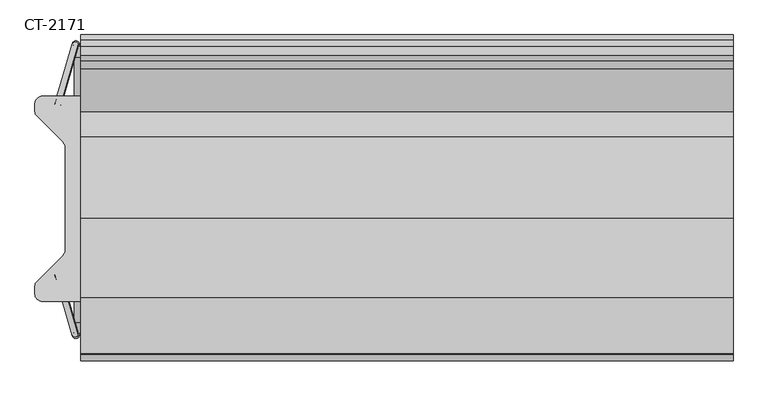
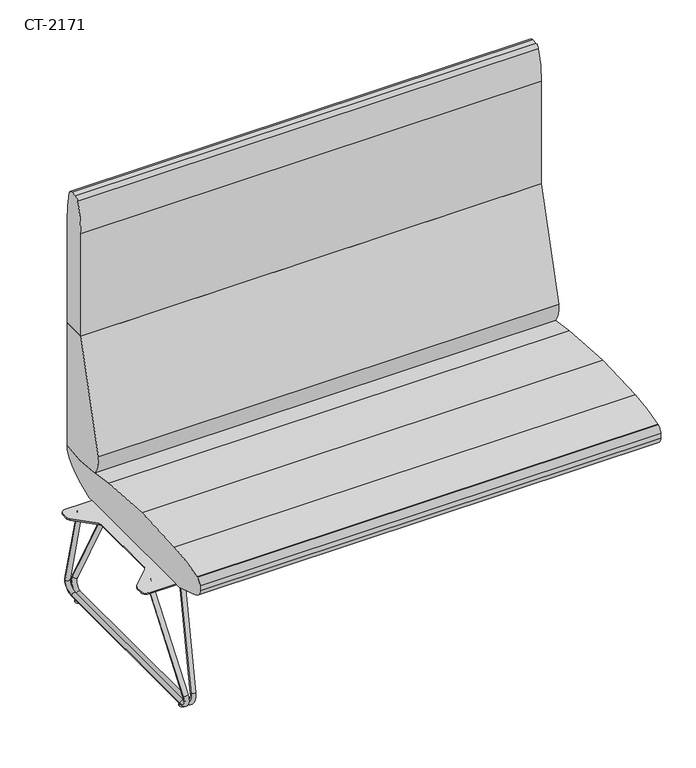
"""IFC4 building model written with IfcOpenShell, lengths in millimetres: furniture geometry, Davis_Furniture-Cantina-High_Back_Straight : CT-2171."""

import ifcopenshell
import ifcopenshell.guid

model = None  # the IFC model being written
_history = None  # IfcOwnerHistory: only IFC2X3 demands one
_inside = {}  # id of a spatial element -> (the spatial element, [elements in it])
_under = {}  # id of a project, library or spatial element -> (it, [spatial elements below it])
_declared = {}  # id of a project -> (the project, [libraries it declares])
_typed = {}  # id of a type object -> (the type object, [elements of that type])
_made_of = {}  # id of a material, layer set ... -> (it, [elements and type objects made of it])


def new_model(schema):
    """Start an empty IFC model of exactly this schema.

    Asked for "IFC4X3", IfcOpenShell would pick the latest addendum, in which some entities
    have other attributes; the version numbers below select the first issue.
    IFC2X3 requires an IfcOwnerHistory on every rooted entity: one is made here for all.
    """
    global model, _history
    if schema == "IFC4X3":
        model = ifcopenshell.file(schema_version=(4, 3, 0, 0))
    else:
        model = ifcopenshell.file(schema=schema)
    _inside.clear()
    _under.clear()
    _declared.clear()
    _typed.clear()
    _made_of.clear()
    _history = None
    if model.schema == "IFC2X3":
        org = make("IfcOrganization", Name="unknown")
        user = make(
            "IfcPersonAndOrganization",
            ThePerson=make("IfcPerson", FamilyName="unknown"),
            TheOrganization=org,
        )
        app = make(
            "IfcApplication",
            ApplicationDeveloper=org,
            Version="unknown",
            ApplicationFullName="unknown",
            ApplicationIdentifier="unknown",
        )
        _history = make(
            "IfcOwnerHistory",
            OwningUser=user,
            OwningApplication=app,
            ChangeAction="ADDED",
            CreationDate=0,
        )
    return model


def make(cls, **values):
    """One entity of the class cls with the attributes given. An attribute that is None is left unset."""
    return model.create_entity(
        cls, **{name: value for name, value in values.items() if value is not None}
    )


def rooted(cls, **values):
    """An entity with a GlobalId (a new one), such as an element, a storey or a relation."""
    return make(cls, GlobalId=ifcopenshell.guid.new(), OwnerHistory=_history, **values)


def si_unit(unit_type, name, prefix=None):
    """IfcSIUnit, for example si_unit("LENGTHUNIT", "METRE", prefix="MILLI")."""
    return make("IfcSIUnit", UnitType=unit_type, Prefix=prefix, Name=name)


def assignment(units):
    """IfcUnitAssignment: the units of a project."""
    return None if units is None else make("IfcUnitAssignment", Units=units)


def point(xyz):
    """IfcCartesianPoint."""
    return None if xyz is None else make("IfcCartesianPoint", Coordinates=xyz)


def direction(xyz):
    """IfcDirection."""
    return None if xyz is None else make("IfcDirection", DirectionRatios=xyz)


def frame(location, z_axis=None, x_axis=None):
    """IfcAxis2Placement3D, a coordinate frame: its origin and axes. An axis left out is left unset."""
    return make(
        "IfcAxis2Placement3D",
        Location=point(location),
        Axis=direction(z_axis),
        RefDirection=direction(x_axis),
    )


def frame_2d(location, x_axis=None):
    """IfcAxis2Placement2D, a coordinate frame in the plane: its origin and x axis."""
    return make(
        "IfcAxis2Placement2D", Location=point(location), RefDirection=direction(x_axis)
    )


def origin():
    """The frame at (0, 0, 0) with its axes left unset."""
    return frame((0.0, 0.0, 0.0))


def origin_with_axes():
    """The frame at (0, 0, 0) with the z axis (0, 0, 1) and the x axis (1, 0, 0) written out."""
    return frame((0.0, 0.0, 0.0), z_axis=(0.0, 0.0, 1.0), x_axis=(1.0, 0.0, 0.0))


def place(relative_to, where):
    """IfcLocalPlacement: puts the frame where relative to a parent placement (None: the world)."""
    return make(
        "IfcLocalPlacement", PlacementRelTo=relative_to, RelativePlacement=where
    )


def context(
    kind, dimensions, precision=None, world=None, true_north=None, identifier=None
):
    """IfcGeometricRepresentationContext, for example the 3D "Model" context."""
    return make(
        "IfcGeometricRepresentationContext",
        ContextIdentifier=identifier,
        ContextType=kind,
        CoordinateSpaceDimension=dimensions,
        Precision=precision,
        WorldCoordinateSystem=world,
        TrueNorth=true_north,
    )


def project(units=None, contexts=None):
    """IfcProject with its units and contexts."""
    return rooted(
        "IfcProject",
        Name="project",
        RepresentationContexts=contexts,
        UnitsInContext=assignment(units),
    )


def spatial(cls, under=None, at=None, **own):
    """A site, building, storey or space (cls), placed at a placement, below another one or the project."""
    s = rooted(cls, ObjectPlacement=at, **own)
    if under is not None:
        _under.setdefault(under.id(), (under, []))[1].append(s)
    return s


def polyline(points):
    """IfcPolyline through the points."""
    return make("IfcPolyline", Points=[point(p) for p in points])


def circle_curve(where, radius):
    """IfcCircle in the frame where."""
    return make("IfcCircle", Position=where, Radius=radius)


def ellipse_curve(where, semi_axis1, semi_axis2):
    """IfcEllipse in the frame where."""
    return make(
        "IfcEllipse", Position=where, SemiAxis1=semi_axis1, SemiAxis2=semi_axis2
    )


def trimmed(basis, trim1, trim2, sense, master):
    """IfcTrimmedCurve: the piece of a basis curve between two trims."""
    return make(
        "IfcTrimmedCurve",
        BasisCurve=basis,
        Trim1=trim1,
        Trim2=trim2,
        SenseAgreement=sense,
        MasterRepresentation=master,
    )


def segment(curve, same_sense, transition):
    """IfcCompositeCurveSegment."""
    return make(
        "IfcCompositeCurveSegment",
        Transition=transition,
        SameSense=same_sense,
        ParentCurve=curve,
    )


def composite_curve(segments, self_intersect=None):
    """IfcCompositeCurve: segments joined end to end."""
    return make("IfcCompositeCurve", Segments=segments, SelfIntersect=self_intersect)


def outline(outer, holes=None, kind="AREA"):
    """IfcArbitraryClosedProfileDef: a profile drawn as a closed curve; with holes, ...WithVoids."""
    if holes is None:
        return make("IfcArbitraryClosedProfileDef", ProfileType=kind, OuterCurve=outer)
    return make(
        "IfcArbitraryProfileDefWithVoids",
        ProfileType=kind,
        OuterCurve=outer,
        InnerCurves=holes,
    )


def extrude(swept, where, along, depth):
    """IfcExtrudedAreaSolid: the profile swept, set in the frame where, extruded along a direction by depth."""
    return make(
        "IfcExtrudedAreaSolid",
        SweptArea=swept,
        Position=where,
        ExtrudedDirection=direction(along),
        Depth=depth,
    )


def shape(context_of_items, identifier, shape_type, items):
    """IfcShapeRepresentation: the items that make up one representation, for example the "Body"."""
    return make(
        "IfcShapeRepresentation",
        ContextOfItems=context_of_items,
        RepresentationIdentifier=identifier,
        RepresentationType=shape_type,
        Items=items,
    )


def source(mapping_origin, context_of_items, identifier, shape_type, items):
    """IfcRepresentationMap: a shape defined once, which mapped items show again and again."""
    return make(
        "IfcRepresentationMap",
        MappingOrigin=mapping_origin,
        MappedRepresentation=shape(context_of_items, identifier, shape_type, items),
    )


def transform(
    local_origin,
    x_axis=None,
    y_axis=None,
    z_axis=None,
    scale=None,
    scale2=None,
    scale3=None,
    uniform=True,
):
    """IfcCartesianTransformationOperator3D, or its non-uniform kind. x_axis, y_axis, z_axis: its Axis1, 2, 3."""
    if uniform:
        return make(
            "IfcCartesianTransformationOperator3D",
            Axis1=direction(x_axis),
            Axis2=direction(y_axis),
            LocalOrigin=point(local_origin),
            Scale=scale,
            Axis3=direction(z_axis),
        )
    return make(
        "IfcCartesianTransformationOperator3DnonUniform",
        Axis1=direction(x_axis),
        Axis2=direction(y_axis),
        LocalOrigin=point(local_origin),
        Scale=scale,
        Axis3=direction(z_axis),
        Scale2=scale2,
        Scale3=scale3,
    )


def mapped(mapping_source, mapping_target):
    """IfcMappedItem: shows the shape of a source again, moved by a transform."""
    return make(
        "IfcMappedItem", MappingSource=mapping_source, MappingTarget=mapping_target
    )


def made_of(thing, what):
    """Note that an element or type object is made of a material, layer set ...; save() writes the relation."""
    if what is not None:
        _made_of.setdefault(what.id(), (what, []))[1].append(thing)
    return thing


def element(
    cls,
    number,
    at=None,
    inside=None,
    cuts=None,
    type_object=None,
    material=None,
    context=None,
    identifier="Body",
    shape_type=None,
    held_by="IfcProductDefinitionShape",
    body=None,
    shapes=None,
    **own,
):
    """One element of the class cls, such as IfcWall. Its Tag is "e" and its number.

    at: its placement. inside: the storey or other place that contains it. cuts: it is an
    opening in that element (IfcRelVoidsElement). A single representation is given by context,
    identifier, shape_type and body (its items); several are given by shapes. held_by: the class
    of the entity that holds the representations. save() writes the other relations.
    """
    e = rooted(cls, Tag="e%d" % number, ObjectPlacement=at, **own)
    if body is not None:
        shapes = [shape(context, identifier, shape_type, body)]
    if shapes is not None:
        e.Representation = make(held_by, Representations=shapes)
    if inside is not None:
        _inside.setdefault(inside.id(), (inside, []))[1].append(e)
    if cuts is not None:
        rooted(
            "IfcRelVoidsElement", RelatingBuildingElement=cuts, RelatedOpeningElement=e
        )
    if type_object is not None:
        _typed.setdefault(type_object.id(), (type_object, []))[1].append(e)
    return made_of(e, material)


def aggregate(whole, parts):
    """IfcRelAggregates: a whole, such as a stair, and the parts it consists of."""
    return rooted("IfcRelAggregates", RelatingObject=whole, RelatedObjects=parts)


def save(model, path):
    """Write the relations noted so far, then the file.

    IfcRelAggregates (storeys below a building ...), IfcRelContainedInSpatialStructure (elements
    in a storey), IfcRelDefinesByType, IfcRelAssociatesMaterial and IfcRelDeclares: one each for
    every whole, place, type object, material and project.
    """
    for whole, parts in _under.values():
        aggregate(whole, parts)
    for where, things in _inside.values():
        rooted(
            "IfcRelContainedInSpatialStructure",
            RelatedElements=things,
            RelatingStructure=where,
        )
    for kind, things in _typed.values():
        rooted("IfcRelDefinesByType", RelatedObjects=things, RelatingType=kind)
    for what, things in _made_of.values():
        rooted("IfcRelAssociatesMaterial", RelatedObjects=things, RelatingMaterial=what)
    for by, libraries in _declared.values():
        rooted("IfcRelDeclares", RelatingContext=by, RelatedDefinitions=libraries)
    model.write(path)


def plane_surface(at):
    """IfcPlane: the flat surface through the origin of the frame at, square to its z axis."""
    return make("IfcPlane", Position=at)


def cylinder_surface(at, radius):
    """IfcCylindricalSurface: all points at the distance radius from the z axis of the frame at."""
    return make("IfcCylindricalSurface", Position=at, Radius=radius)


def revolved_surface(curve, axis_point, axis_direction):
    """IfcSurfaceOfRevolution: the curve turned about the line through axis_point along axis_direction."""
    return make(
        "IfcSurfaceOfRevolution",
        SweptCurve=make("IfcArbitraryOpenProfileDef", ProfileType="CURVE", Curve=curve),
        AxisPosition=make("IfcAxis1Placement", Location=point(axis_point), Axis=direction(axis_direction)),
    )


def advanced_brep(points, edges, surfaces, faces):
    """IfcAdvancedBrep: a solid bounded by faces that lie on surfaces and meet in shared edges.

    An edge is (start, end): straight between two places in points (the first is 0);
    or (start, end, curve); or (start, end, curve, False) where it runs against its curve.
    A face is (place in surfaces, loops), or (place, loops, False) where it looks against
    its surface's normal. A loop lists edges by number (the first is 1), with a minus sign
    where the edge is run from its end to its start. The first loop is the outer one.
    """
    corners = [point(p) for p in points]
    vertices = [make("IfcVertexPoint", VertexGeometry=c) for c in corners]
    made = []
    for start, end, *more in edges:
        made.append(
            make(
                "IfcEdgeCurve",
                EdgeStart=vertices[start],
                EdgeEnd=vertices[end],
                EdgeGeometry=more[0] if more else make("IfcPolyline", Points=[corners[start], corners[end]]),
                SameSense=more[1] if len(more) > 1 else True,
            )
        )
    hull = []
    for where, loops, *sense in faces:
        bounds = []
        for j, loop in enumerate(loops):
            ring = [make("IfcOrientedEdge", EdgeElement=made[abs(k) - 1], Orientation=k > 0) for k in loop]
            bounds.append(
                make(
                    "IfcFaceOuterBound" if j == 0 else "IfcFaceBound",
                    Bound=make("IfcEdgeLoop", EdgeList=ring),
                    Orientation=True,
                )
            )
        hull.append(make("IfcAdvancedFace", Bounds=bounds, FaceSurface=surfaces[where], SameSense=sense[0] if sense else True))
    return make("IfcAdvancedBrep", Outer=make("IfcClosedShell", CfsFaces=hull))


def ct_2171_f297477d(model_context):
    return source(origin(), model_context, "Body", "SolidModel", [
        extrude(outline(composite_curve([segment(trimmed(circle_curve(frame_2d((-560.9693187, 183.2173202)), 14.9820313), [point((-560.9693187, 198.1993514))], [point((-545.9872874, 183.2173202))], False, "CARTESIAN"), True, "CONTINUOUS"), segment(polyline([(-545.9872874, 183.2173202), (-545.9872874, 168.7877705)]), True, "CONTINUOUS"), segment(trimmed(circle_curve(frame_2d((-559.9936431, 168.7877705)), 14.0063557), [point((-545.9872874, 168.7877705))], [point((-550.089654, 158.8837814))], False, "CARTESIAN"), True, "CONTINUOUS"), segment(polyline([(-550.089654, 158.8837814), (-600.6863336, 108.2871019)]), True, "CONTINUOUS"), segment(trimmed(circle_curve(frame_2d((-590.3029124, 97.9036807)), 14.684375), [point((-600.6863336, 108.2871019))], [point((-604.9872874, 97.9036807))], True, "CARTESIAN"), True, "CONTINUOUS"), segment(polyline([(-604.9872874, 97.9036807), (-604.9872874, -101.5049781)]), True, "CONTINUOUS"), segment(trimmed(circle_curve(frame_2d((-590.3029124, -101.5049781)), 14.684375), [point((-604.9872874, -101.5049781))], [point((-600.6863336, -111.8883992))], True, "CARTESIAN"), True, "CONTINUOUS"), segment(polyline([(-600.6863336, -111.8883992), (-550.089654, -162.4850787)]), True, "CONTINUOUS"), segment(trimmed(circle_curve(frame_2d((-559.9936431, -172.3890678)), 14.0063557), [point((-550.089654, -162.4850787))], [point((-545.9872874, -172.3890678))], False, "CARTESIAN"), True, "CONTINUOUS"), segment(polyline([(-545.9872874, -172.3890678), (-545.9872874, -186.8186175)]), True, "CONTINUOUS"), segment(trimmed(circle_curve(frame_2d((-560.9693187, -186.8186175)), 14.9820312), [point((-545.9872874, -186.8186175))], [point((-560.9693187, -201.8006488))], False, "CARTESIAN"), True, "CONTINUOUS"), segment(polyline([(-560.9693187, -201.8006488), (-709.0306813, -201.8006488)]), True, "CONTINUOUS"), segment(trimmed(circle_curve(frame_2d((-709.0306813, -186.8440427)), 14.956606), [point((-709.0306813, -201.8006488))], [point((-723.9872873, -186.8440427))], False, "CARTESIAN"), True, "CONTINUOUS"), segment(polyline([(-723.9872873, -186.8440427), (-723.9872873, -172.3822284)]), True, "CONTINUOUS"), segment(trimmed(circle_curve(frame_2d((-709.9974436, -172.3822284)), 13.9898438), [point((-723.9872873, -172.3822284))], [point((-719.889757, -162.489915))], False, "CARTESIAN"), True, "CONTINUOUS"), segment(polyline([(-719.889757, -162.489915), (-669.2882412, -111.8883992)]), True, "CONTINUOUS"), segment(trimmed(circle_curve(frame_2d((-679.6716623, -101.5049781)), 14.684375), [point((-669.2882412, -111.8883992))], [point((-664.9872873, -101.5049781))], True, "CARTESIAN"), True, "CONTINUOUS"), segment(polyline([(-664.9872873, -101.5049781), (-664.9872873, 97.918921)]), True, "CONTINUOUS"), segment(trimmed(circle_curve(frame_2d((-679.6348691, 97.918921)), 14.6475818), [point((-664.9872873, 97.918921))], [point((-669.2774647, 108.2763254))], True, "CARTESIAN"), True, "CONTINUOUS"), segment(polyline([(-669.2774647, 108.2763254), (-719.889757, 158.8886177)]), True, "CONTINUOUS"), segment(trimmed(circle_curve(frame_2d((-709.9974436, 168.780931)), 13.9898437), [point((-719.889757, 158.8886177))], [point((-723.9872873, 168.780931))], False, "CARTESIAN"), True, "CONTINUOUS"), segment(polyline([(-723.9872873, 168.780931), (-723.9872873, 183.2427454)]), True, "CONTINUOUS"), segment(trimmed(circle_curve(frame_2d((-709.0306813, 183.2427454)), 14.956606), [point((-723.9872873, 183.2427454))], [point((-709.0306813, 198.1993514))], False, "CARTESIAN"), True, "CONTINUOUS"), segment(polyline([(-709.0306813, 198.1993514), (-560.9693187, 198.1993514)]), True, "CONTINUOUS")], self_intersect=False)), frame((0.0, 0.0, 330.7277844), z_axis=(0.0, 0.0, 1.0), x_axis=(1.0, 0.0, 0.0)), (0.0, 0.0, 1.0), 3.1724353),
        advanced_brep(
        [(-630.6523545, 298.4299122, 51.3019909), (-618.2136707, 297.001732, 49.1737411), (-583.6431811, 178.5251074, 330.7277844), (-596.3431811, 180.8488451, 330.7277844), (-635.0044706, 274.6441492, 15.8568497), (-622.3044706, 274.6441492, 15.8568497), (-635.0044706, -242.6856853, 15.8568497), (-622.3044706, -242.6856853, 15.8568497), (-630.6523545, -266.4714483, 51.3019909), (-618.2136707, -265.0432681, 49.1737411), (-596.3431811, -148.8903812, 330.7277844), (-583.6431811, -146.5666435, 330.7277844)],
        [
            (0, 1, circle_curve(frame((-624.4330126, 297.7158221, 50.237866), z_axis=(0.112455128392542, -0.3853952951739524, 0.9158735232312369), x_axis=(-0.9794239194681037, 0.11245512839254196, 0.16757872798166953)), 6.35)),
            (1, 2),
            (2, 3, ellipse_curve(frame((-589.9931811, 179.6869762, 330.7277844), z_axis=(0.0, 0.0, -1.0), x_axis=(0.28011057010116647, -0.9599677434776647, 0.0)), 6.9332717, 6.35)),
            (3, 0),
            (1, 0, circle_curve(frame((-624.4330126, 297.7158221, 50.237866), z_axis=(0.112455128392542, -0.3853952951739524, 0.9158735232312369), x_axis=(-0.9794239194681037, 0.11245512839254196, 0.16757872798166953)), 6.35)),
            (3, 2, ellipse_curve(frame((-589.9931811, 179.6869762, 330.7277844), z_axis=(0.0, 0.0, -1.0), x_axis=(0.28011057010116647, -0.9599677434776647, 0.0)), 6.9332717, 6.35)),
            (0, 4, circle_curve(frame((-631.8630451, 274.6441492, 41.4417072), z_axis=(-0.9925461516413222, 0.0, 0.12186934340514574), x_axis=(0.046967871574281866, 0.9227515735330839, 0.38252261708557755)), 25.7769953)),
            (4, 5, circle_curve(frame((-628.6544706, 274.6441492, 15.8568497), z_axis=(0.0, 1.0, 0.0), x_axis=(-1.0, 0.0, 0.0)), 6.35)),
            (5, 1, circle_curve(frame((-619.3516672, 274.6441492, 39.9055032), z_axis=(0.9925461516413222, 0.0, -0.12186934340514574), x_axis=(0.046967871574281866, 0.9227515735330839, 0.38252261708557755)), 24.2292547)),
            (5, 4, circle_curve(frame((-628.6544706, 274.6441492, 15.8568497), z_axis=(0.0, 0.9999999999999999, 0.0), x_axis=(-1.0, 0.0, 0.0)), 6.35)),
            (4, 6),
            (6, 7, circle_curve(frame((-628.6544706, -242.6856853, 15.8568497), z_axis=(0.0, 1.0, 0.0), x_axis=(-1.0, 0.0, 0.0)), 6.35)),
            (7, 5),
            (7, 6, circle_curve(frame((-628.6544706, -242.6856853, 15.8568497), z_axis=(0.0, 1.0, 0.0), x_axis=(-1.0, 0.0, 0.0)), 6.35)),
            (6, 8, circle_curve(frame((-631.8630451, -242.6856853, 41.4417072), z_axis=(-0.9925461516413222, 0.0, 0.12186934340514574), x_axis=(-0.12186934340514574, 0.0, -0.9925461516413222)), 25.7769953)),
            (8, 9, circle_curve(frame((-624.4330126, -265.7573582, 50.237866), z_axis=(-0.11245512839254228, -0.3853952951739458, -0.9158735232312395), x_axis=(-0.9794239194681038, -0.1124551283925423, 0.16757872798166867)), 6.35)),
            (9, 7, circle_curve(frame((-619.3516672, -242.6856853, 39.9055032), z_axis=(0.9925461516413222, 0.0, -0.12186934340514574), x_axis=(-0.12186934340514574, 0.0, -0.9925461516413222)), 24.2292547)),
            (9, 8, circle_curve(frame((-624.4330126, -265.7573582, 50.237866), z_axis=(-0.11245512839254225, -0.3853952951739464, -0.9158735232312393), x_axis=(-0.9794239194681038, -0.11245512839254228, 0.16757872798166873)), 6.35)),
            (8, 10),
            (10, 11, ellipse_curve(frame((-589.9931811, -147.7285123, 330.7277844), z_axis=(0.0, 0.0, -1.0), x_axis=(-0.28011057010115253, -0.9599677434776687, 0.0)), 6.9332717, 6.35)),
            (11, 9),
            (11, 10, ellipse_curve(frame((-589.9931811, -147.7285123, 330.7277844), z_axis=(0.0, 0.0, -1.0), x_axis=(-0.28011057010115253, -0.9599677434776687, 0.0)), 6.9332717, 6.35)),
        ],
        [
            cylinder_surface(frame((-588.8594802, 175.8016664, 339.9610379), z_axis=(0.112455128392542, -0.3853952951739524, 0.9158735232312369), x_axis=(-0.9794239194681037, 0.11245512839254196, 0.16757872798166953)), 6.35),
            revolved_surface(trimmed(ellipse_curve(frame((-624.4330126, 297.7158221, 50.237866), z_axis=(0.11245512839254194, -0.38539529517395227, 0.9158735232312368), x_axis=(-0.9794239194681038, 0.112455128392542, 0.1675787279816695)), 6.35, 6.35), [point((-630.6523545, 298.4299122, 51.3019909))], [point((-618.2136707, 297.001732, 49.1737411))], True, "CARTESIAN"), (-572.6417625, 274.6441492, 34.170248), (-0.9925461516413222, 0.0, 0.12186934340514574)),
            revolved_surface(trimmed(ellipse_curve(frame((-624.4330126, 297.7158221, 50.237866), z_axis=(0.11245512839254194, -0.38539529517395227, 0.9158735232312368), x_axis=(-0.9794239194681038, 0.112455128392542, 0.1675787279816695)), 6.35, 6.35), [point((-618.2136707, 297.001732, 49.1737411))], [point((-630.6523545, 298.4299122, 51.3019909))], True, "CARTESIAN"), (-572.6417625, 274.6441492, 34.170248), (-0.9925461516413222, 0.0, 0.12186934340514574)),
            cylinder_surface(frame((-628.6544706, 274.6441492, 15.8568497), z_axis=(0.0, 1.0, 0.0), x_axis=(-1.0, 0.0, 0.0)), 6.35),
            revolved_surface(trimmed(ellipse_curve(frame((-628.6544706, -242.6856853, 15.8568497), z_axis=(0.0, 1.0, 0.0), x_axis=(-1.0, 0.0, 0.0)), 6.35, 6.35), [point((-635.0044706, -242.6856853, 15.8568497))], [point((-622.3044706, -242.6856853, 15.8568497))], True, "CARTESIAN"), (-572.6417625, -242.6856853, 34.170248), (-0.9925461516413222, 0.0, 0.12186934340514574)),
            revolved_surface(trimmed(ellipse_curve(frame((-628.6544706, -242.6856853, 15.8568497), z_axis=(0.0, 1.0, 0.0), x_axis=(-1.0, 0.0, 0.0)), 6.35, 6.35), [point((-622.3044706, -242.6856853, 15.8568497))], [point((-635.0044706, -242.6856853, 15.8568497))], True, "CARTESIAN"), (-572.6417625, -242.6856853, 34.170248), (-0.9925461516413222, 0.0, 0.12186934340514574)),
            cylinder_surface(frame((-624.4330126, -265.7573582, 50.237866), z_axis=(-0.11245512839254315, -0.38539529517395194, -0.9158735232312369), x_axis=(-0.9794239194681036, -0.11245512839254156, 0.1675787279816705)), 6.35),
            plane_surface(frame((-695.325, -168.170768, 330.7277844), z_axis=(0.0, 0.0, 1.0), x_axis=(0.0, 1.0, 0.0))),
        ],
        [
            (0, [[1, 2, 3, 4]]),
            (0, [[5, -4, 6, -2]]),
            (1, [[-1, 7, 8, 9]]),
            (2, [[-5, -9, 10, -7]]),
            (3, [[-8, 11, 12, 13]]),
            (3, [[-10, -13, 14, -11]]),
            (4, [[-12, 15, 16, 17]]),
            (5, [[-14, -17, 18, -15]]),
            (6, [[-16, 19, 20, 21]]),
            (6, [[-18, -21, 22, -19]]),
            (7, [[-3, -6]]),
            (7, [[-20, -22]]),
        ],
    ),
        advanced_brep(
        [(-651.7863293, 297.001732, 49.1737411), (-639.3476455, 298.4299122, 51.3019909), (-673.6568189, 180.8488451, 330.7277844), (-686.3568189, 178.5251074, 330.7277844), (-647.6955294, 274.6441492, 15.8568497), (-634.9955294, 274.6441492, 15.8568497), (-647.6955294, -242.6856853, 15.8568497), (-634.9955294, -242.6856853, 15.8568497), (-651.7863293, -265.0432681, 49.1737411), (-639.3476455, -266.4714483, 51.3019909), (-686.3568189, -146.5666435, 330.7277844), (-673.6568189, -148.8903812, 330.7277844)],
        [
            (0, 1, circle_curve(frame((-645.5669874, 297.7158221, 50.237866), z_axis=(-0.11245512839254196, -0.38539529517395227, 0.915873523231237), x_axis=(0.9794239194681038, 0.11245512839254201, 0.1675787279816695)), 6.35)),
            (1, 2),
            (2, 3, ellipse_curve(frame((-680.0068189, 179.6869762, 330.7277844), z_axis=(0.0, 0.0, -1.0), x_axis=(-0.28011057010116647, -0.9599677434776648, 0.0)), 6.9332717, 6.35)),
            (3, 0),
            (1, 0, circle_curve(frame((-645.5669874, 297.7158221, 50.237866), z_axis=(-0.11245512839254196, -0.38539529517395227, 0.915873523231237), x_axis=(0.9794239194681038, 0.11245512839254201, 0.1675787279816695)), 6.35)),
            (3, 2, ellipse_curve(frame((-680.0068189, 179.6869762, 330.7277844), z_axis=(0.0, 0.0, -1.0), x_axis=(-0.28011057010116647, -0.9599677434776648, 0.0)), 6.9332717, 6.35)),
            (0, 4, circle_curve(frame((-650.6483328, 274.6441492, 39.9055032), z_axis=(-0.9925461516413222, 0.0, -0.12186934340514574), x_axis=(-0.046967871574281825, 0.9227515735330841, 0.38252261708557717)), 24.2292547)),
            (4, 5, circle_curve(frame((-641.3455294, 274.6441492, 15.8568497), z_axis=(0.0, 1.0000000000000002, 0.0), x_axis=(1.0, 0.0, 0.0)), 6.35)),
            (5, 1, circle_curve(frame((-638.1369549, 274.6441492, 41.4417072), z_axis=(0.9925461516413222, 0.0, 0.12186934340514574), x_axis=(-0.046967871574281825, 0.9227515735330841, 0.38252261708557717)), 25.7769953)),
            (5, 4, circle_curve(frame((-641.3455294, 274.6441492, 15.8568497), z_axis=(0.0, 1.0000000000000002, 0.0), x_axis=(1.0, 0.0, 0.0)), 6.35)),
            (4, 6),
            (6, 7, circle_curve(frame((-641.3455294, -242.6856853, 15.8568497), z_axis=(0.0, 1.0, 0.0), x_axis=(1.0, 0.0, 0.0)), 6.35)),
            (7, 5),
            (7, 6, circle_curve(frame((-641.3455294, -242.6856853, 15.8568497), z_axis=(0.0, 1.0, 0.0), x_axis=(1.0, 0.0, 0.0)), 6.35)),
            (6, 8, circle_curve(frame((-650.6483328, -242.6856853, 39.9055032), z_axis=(-0.9925461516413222, 0.0, -0.12186934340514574), x_axis=(0.12186934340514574, 0.0, -0.9925461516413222)), 24.2292547)),
            (8, 9, circle_curve(frame((-645.5669874, -265.7573582, 50.237866), z_axis=(0.11245512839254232, -0.3853952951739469, -0.915873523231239), x_axis=(0.9794239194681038, -0.11245512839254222, 0.1675787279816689)), 6.35)),
            (9, 7, circle_curve(frame((-638.1369549, -242.6856853, 41.4417072), z_axis=(0.9925461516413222, 0.0, 0.12186934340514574), x_axis=(0.12186934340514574, 0.0, -0.9925461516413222)), 25.7769953)),
            (9, 8, circle_curve(frame((-645.5669874, -265.7573582, 50.237866), z_axis=(0.11245512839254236, -0.3853952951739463, -0.9158735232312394), x_axis=(0.9794239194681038, -0.11245512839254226, 0.1675787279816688)), 6.35)),
            (8, 10),
            (10, 11, ellipse_curve(frame((-680.0068189, -147.7285123, 330.7277844), z_axis=(0.0, 0.0, -1.0), x_axis=(0.2801105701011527, -0.9599677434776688, 0.0)), 6.9332717, 6.35)),
            (11, 9),
            (11, 10, ellipse_curve(frame((-680.0068189, -147.7285123, 330.7277844), z_axis=(0.0, 0.0, -1.0), x_axis=(0.2801105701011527, -0.9599677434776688, 0.0)), 6.9332717, 6.35)),
        ],
        [
            cylinder_surface(frame((-681.1405198, 175.8016664, 339.9610379), z_axis=(-0.11245512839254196, -0.38539529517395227, 0.915873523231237), x_axis=(0.9794239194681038, 0.11245512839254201, 0.1675787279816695)), 6.35),
            revolved_surface(trimmed(ellipse_curve(frame((-645.5669874, 297.7158221, 50.237866), z_axis=(-0.11245512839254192, -0.385395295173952, 0.9158735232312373), x_axis=(0.9794239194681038, 0.11245512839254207, 0.1675787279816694)), 6.35, 6.35), [point((-651.7863293, 297.001732, 49.1737411))], [point((-639.3476455, 298.4299122, 51.3019909))], True, "CARTESIAN"), (-697.3582375, 274.6441492, 34.170248), (-0.9925461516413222, 0.0, -0.12186934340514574)),
            revolved_surface(trimmed(ellipse_curve(frame((-645.5669874, 297.7158221, 50.237866), z_axis=(-0.11245512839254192, -0.385395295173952, 0.9158735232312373), x_axis=(0.9794239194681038, 0.11245512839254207, 0.1675787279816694)), 6.35, 6.35), [point((-639.3476455, 298.4299122, 51.3019909))], [point((-651.7863293, 297.001732, 49.1737411))], True, "CARTESIAN"), (-697.3582375, 274.6441492, 34.170248), (-0.9925461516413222, 0.0, -0.12186934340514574)),
            cylinder_surface(frame((-641.3455294, 274.6441492, 15.8568497), z_axis=(0.0, 1.0, 0.0), x_axis=(1.0, 0.0, 0.0)), 6.35),
            revolved_surface(trimmed(ellipse_curve(frame((-641.3455294, -242.6856853, 15.8568497), z_axis=(0.0, 1.0, 0.0), x_axis=(1.0, 0.0, 0.0)), 6.35, 6.35), [point((-647.6955294, -242.6856853, 15.8568497))], [point((-634.9955294, -242.6856853, 15.8568497))], True, "CARTESIAN"), (-697.3582375, -242.6856853, 34.170248), (-0.9925461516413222, 0.0, -0.12186934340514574)),
            revolved_surface(trimmed(ellipse_curve(frame((-641.3455294, -242.6856853, 15.8568497), z_axis=(0.0, 1.0, 0.0), x_axis=(1.0, 0.0, 0.0)), 6.35, 6.35), [point((-634.9955294, -242.6856853, 15.8568497))], [point((-647.6955294, -242.6856853, 15.8568497))], True, "CARTESIAN"), (-697.3582375, -242.6856853, 34.170248), (-0.9925461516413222, 0.0, -0.12186934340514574)),
            cylinder_surface(frame((-645.5669874, -265.7573582, 50.237866), z_axis=(0.11245512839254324, -0.38539529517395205, -0.9158735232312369), x_axis=(0.9794239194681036, -0.11245512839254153, 0.16757872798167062)), 6.35),
            plane_surface(frame((-695.325, -168.170768, 330.7277844), z_axis=(0.0, 0.0, 1.0), x_axis=(0.0, 1.0, 0.0))),
        ],
        [
            (0, [[1, 2, 3, 4]]),
            (0, [[5, -4, 6, -2]]),
            (1, [[-1, 7, 8, 9]]),
            (2, [[-5, -9, 10, -7]]),
            (3, [[-8, 11, 12, 13]]),
            (3, [[-10, -13, 14, -11]]),
            (4, [[-12, 15, 16, 17]]),
            (5, [[-14, -17, 18, -15]]),
            (6, [[-16, 19, 20, 21]]),
            (6, [[-18, -21, 22, -19]]),
            (7, [[-3, -6]]),
            (7, [[-20, -22]]),
        ],
    ),
        extrude(outline(composite_curve([segment(trimmed(circle_curve(frame_2d((-635.0, -233.1061316)), 8.5328125), [point((-643.5328125, -233.1061316))], [point((-626.4671875, -233.1061316))], False, "CARTESIAN"), True, "CONTINUOUS"), segment(trimmed(circle_curve(frame_2d((-635.0, -233.1061316)), 8.5328125), [point((-626.4671875, -233.1061316))], [point((-643.5328125, -233.1061316))], False, "CARTESIAN"), True, "CONTINUOUS")], self_intersect=False)), origin_with_axes(), (0.0, 0.0, 1.0), 9.5168817),
        extrude(outline(composite_curve([segment(trimmed(circle_curve(frame_2d((-635.0, 265.0645955)), 8.5328125), [point((-643.5328125, 265.0645955))], [point((-626.4671875, 265.0645955))], False, "CARTESIAN"), True, "CONTINUOUS"), segment(trimmed(circle_curve(frame_2d((-635.0, 265.0645955)), 8.5328125), [point((-626.4671875, 265.0645955))], [point((-643.5328125, 265.0645955))], False, "CARTESIAN"), True, "CONTINUOUS")], self_intersect=False)), origin_with_axes(), (0.0, 0.0, 1.0), 9.5168817),
        extrude(outline(composite_curve([segment(polyline([(251.8776889, 780.2222424), (317.5, 780.2222424), (317.5, 422.8417878)]), True, "CONTINUOUS"), segment(trimmed(circle_curve(frame_2d((252.6571889, 734.4725425)), 318.3053839), [point((317.5, 422.8417878))], [point((195.0170524, 421.4295229))], False, "CARTESIAN"), True, "CONTINUOUS"), segment(trimmed(circle_curve(frame_2d((-42.4075795, -868.0213401)), 1311.12699), [point((195.0170524, 421.4295229))], [point((183.4762494, 423.5012032))], True, "CARTESIAN"), True, "CONTINUOUS"), segment(trimmed(circle_curve(frame_2d((262.7994143, 474.997645)), 94.5729772), [point((183.4762494, 423.5012032))], [point((168.334097, 479.5089455))], False, "CARTESIAN"), True, "CONTINUOUS"), segment(polyline([(168.334097, 479.5089455), (251.8776889, 780.2222424)]), True, "CONTINUOUS")], self_intersect=False)), frame((-635.0, 0.0, 0.0), z_axis=(1.0, 0.0, 0.0), x_axis=(0.0, 1.0, 0.0)), (0.0, 0.0, 1.0), 1270.0),
        extrude(outline(composite_curve([segment(trimmed(circle_curve(frame_2d((294.3906222, 1161.9216653)), 12.7), [point((294.3906222, 1174.6216653))], [point((306.6930666, 1165.0744199))], False, "CARTESIAN"), True, "CONTINUOUS"), segment(trimmed(circle_curve(frame_2d((-27.7298481, 1079.3716653)), 345.2298481), [point((306.6930666, 1165.0744199))], [point((317.5, 1079.3716653))], False, "CARTESIAN"), True, "CONTINUOUS"), segment(polyline([(317.5, 1079.3716653), (317.5, 780.2222424), (251.8776889, 780.2222424), (251.8776889, 1079.3716653)]), True, "CONTINUOUS"), segment(trimmed(circle_curve(frame_2d((520.06423, 1079.3716653)), 268.1865412), [point((251.8776889, 1079.3716653))], [point((266.2627436, 1166.0251495))], False, "CARTESIAN"), True, "CONTINUOUS"), segment(trimmed(circle_curve(frame_2d((278.2815379, 1161.9216653)), 12.7), [point((266.2627436, 1166.0251495))], [point((278.2815379, 1174.6216653))], False, "CARTESIAN"), True, "CONTINUOUS"), segment(polyline([(278.2815379, 1174.6216653), (294.3906222, 1174.6216653)]), True, "CONTINUOUS")], self_intersect=False)), frame((-635.0, 0.0, 0.0), z_axis=(1.0, 0.0, 0.0), x_axis=(0.0, 1.0, 0.0)), (0.0, 0.0, 1.0), 1270.0),
        extrude(outline(composite_curve([segment(trimmed(circle_curve(frame_2d((-298.45, 397.7963214)), 19.05), [point((-317.5, 397.7963214))], [point((-305.7075305, 415.40969))], False, "CARTESIAN"), True, "CONTINUOUS"), segment(trimmed(circle_curve(frame_2d((-158.75, 58.7570862)), 385.7429138), [point((-305.7075305, 415.40969))], [point((-303.9688287, 416.1211685))], False, "CARTESIAN"), True, "CONTINUOUS"), segment(trimmed(circle_curve(frame_2d((-152.4794636, -82.1541678)), 520.7949103), [point((-303.9688287, 416.1211685))], [point((-195.0051963, 436.9016101))], False, "CARTESIAN"), True, "CONTINUOUS"), segment(trimmed(circle_curve(frame_2d((-43.2851266, -1414.9460545)), 1858.0524085), [point((-195.0051963, 436.9016101))], [point((-40.3038638, 443.1039622))], False, "CARTESIAN"), True, "CONTINUOUS"), segment(trimmed(circle_curve(frame_2d((-42.4075795, -868.0213401)), 1311.12699), [point((-40.3038638, 443.1039622))], [point((118.3875039, 433.208434))], False, "CARTESIAN"), True, "CONTINUOUS"), segment(trimmed(circle_curve(frame_2d((-42.4075795, -868.0213401)), 1311.12699), [point((118.3875039, 433.208434))], [point((195.0170524, 421.4295229))], False, "CARTESIAN"), True, "CONTINUOUS"), segment(trimmed(circle_curve(frame_2d((252.6571889, 734.4725425)), 318.3053839), [point((195.0170524, 421.4295229))], [point((317.5, 422.8417878))], True, "CARTESIAN"), True, "CONTINUOUS"), segment(polyline([(317.5, 422.8417878), (317.5, 413.6705704)]), True, "CONTINUOUS"), segment(trimmed(circle_curve(frame_2d((311.15, 413.6705704)), 6.35), [point((317.5, 413.6705704))], [point((316.902532, 410.9815417))], False, "CARTESIAN"), True, "CONTINUOUS"), segment(trimmed(circle_curve(frame_2d((213.8512803, 459.1529865)), 113.7543343), [point((316.902532, 410.9815417))], [point((259.2429572, 354.8474534))], False, "CARTESIAN"), True, "CONTINUOUS"), segment(polyline([(259.2429572, 354.8474534), (211.060536, 333.8794297), (-217.9078165, 333.8794297), (-278.4661162, 352.9828937)]), True, "CONTINUOUS"), segment(trimmed(circle_curve(frame_2d((-183.2470513, 654.8289187)), 316.5085989), [point((-278.4661162, 352.9828937))], [point((-294.9895137, 358.7017243))], False, "CARTESIAN"), True, "CONTINUOUS"), segment(trimmed(circle_curve(frame_2d((-272.8348429, 417.4135188)), 62.7527231), [point((-294.9895137, 358.7017243))], [point((-306.6952536, 364.5800367))], False, "CARTESIAN"), True, "CONTINUOUS"), segment(trimmed(circle_curve(frame_2d((-294.0326067, 384.3379698)), 23.4673933), [point((-306.6952536, 364.5800367))], [point((-317.5, 384.3379698))], False, "CARTESIAN"), True, "CONTINUOUS"), segment(polyline([(-317.5, 384.3379698), (-317.5, 397.7963214)]), True, "CONTINUOUS")], self_intersect=False)), frame((-635.0, 0.0, 0.0), z_axis=(1.0, 0.0, 0.0), x_axis=(0.0, 1.0, 0.0)), (0.0, 0.0, 1.0), 1270.0),
    ])


if __name__ == "__main__":
    model = new_model("IFC4")
    model_context = context("Model", 3, world=origin())
    ifc_project = project(units=[si_unit("LENGTHUNIT", "METRE", prefix="MILLI")], contexts=[model_context])
    site = spatial("IfcSite", under=ifc_project)
    building = spatial("IfcBuilding", under=site)
    placement = place(None, origin())
    ct_2171_shape = ct_2171_f297477d(model_context)
    element("IfcFurniture", 1, ObjectType="Davis_Furniture-Cantina-High_Back_Straight : CT-2171", at=placement, inside=building, context=model_context, shape_type="MappedRepresentation", body=[
        mapped(ct_2171_shape, transform((0.0, 0.0, 0.0), x_axis=(1.0, 0.0, 0.0), y_axis=(0.0, 1.0, 0.0), z_axis=(0.0, 0.0, 1.0))),
    ])
    save(model, "model.ifc")
